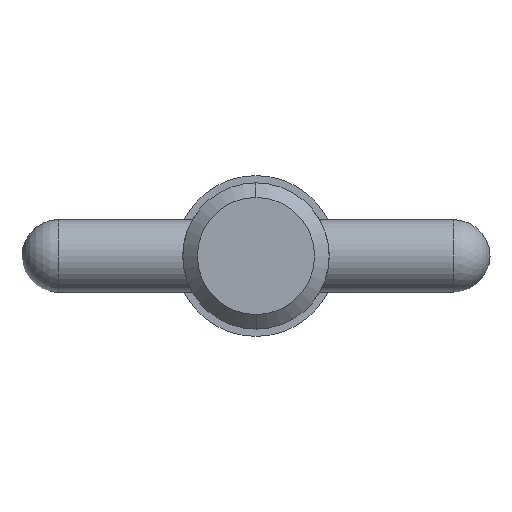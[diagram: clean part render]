
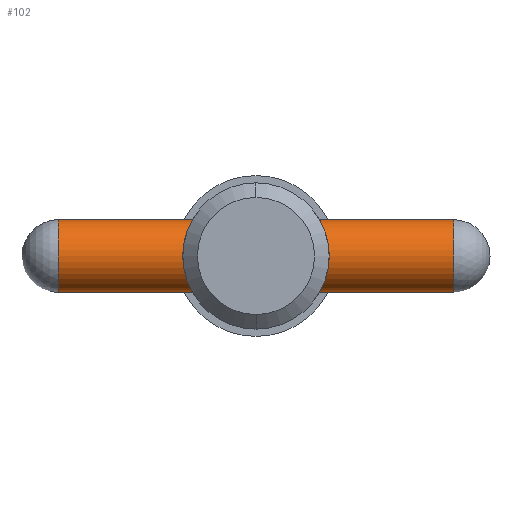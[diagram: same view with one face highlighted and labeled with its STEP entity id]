
A CAD part, left-side view. The second image highlights one B-rep face of the part: STEP entity #102.
In plain terms, the highlighted cylindrical face has radius 1.98 mm (diameter 3.96 mm), a partial arc.
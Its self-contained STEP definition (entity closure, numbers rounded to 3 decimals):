
#102 = ADVANCED_FACE ( 'NONE', ( #365 ), #681, .T. ) ;
#119 = AXIS2_PLACEMENT_3D ( 'NONE', #557, #723, #704 ) ;
#133 = DIRECTION ( 'NONE',  ( 0., 0., -1. ) ) ;
#191 = VERTEX_POINT ( 'NONE', #442 ) ;
#206 = DIRECTION ( 'NONE',  ( 0., -1., 0. ) ) ;
#246 = DIRECTION ( 'NONE',  ( 0., -1., 0. ) ) ;
#291 = DIRECTION ( 'NONE',  ( 0., 0., -1. ) ) ;
#302 = ORIENTED_EDGE ( 'NONE', *, *, #801, .F. ) ;
#321 = AXIS2_PLACEMENT_3D ( 'NONE', #1003, #206, #291 ) ;
#362 = EDGE_CURVE ( 'NONE', #937, #393, #613, .T. ) ;
#365 = FACE_OUTER_BOUND ( 'NONE', #883, .T. ) ;
#390 = DIRECTION ( 'NONE',  ( 0., -1., 0. ) ) ;
#393 = VERTEX_POINT ( 'NONE', #407 ) ;
#394 = LINE ( 'NONE', #699, #622 ) ;
#407 = CARTESIAN_POINT ( 'NONE',  ( 0., -10.72, -1.98 ) ) ;
#442 = CARTESIAN_POINT ( 'NONE',  ( 0., -10.72, 1.98 ) ) ;
#448 = AXIS2_PLACEMENT_3D ( 'NONE', #634, #488, #133 ) ;
#461 = EDGE_CURVE ( 'NONE', #393, #191, #469, .T. ) ;
#469 = CIRCLE ( 'NONE', #448, 1.98 ) ;
#488 = DIRECTION ( 'NONE',  ( 0., 1., 0. ) ) ;
#557 = CARTESIAN_POINT ( 'NONE',  ( 0., 10.72, 0. ) ) ;
#613 = LINE ( 'NONE', #768, #684 ) ;
#622 = VECTOR ( 'NONE', #390, 1000. ) ;
#634 = CARTESIAN_POINT ( 'NONE',  ( 0., -10.72, 0. ) ) ;
#681 = CYLINDRICAL_SURFACE ( 'NONE', #321, 1.98 ) ;
#684 = VECTOR ( 'NONE', #246, 1000. ) ;
#699 = CARTESIAN_POINT ( 'NONE',  ( 0., 12.7, 1.98 ) ) ;
#704 = DIRECTION ( 'NONE',  ( 0., 0., -1. ) ) ;
#707 = ORIENTED_EDGE ( 'NONE', *, *, #777, .T. ) ;
#723 = DIRECTION ( 'NONE',  ( 0., -1., 0. ) ) ;
#768 = CARTESIAN_POINT ( 'NONE',  ( 0., 12.7, -1.98 ) ) ;
#777 = EDGE_CURVE ( 'NONE', #805, #937, #942, .T. ) ;
#801 = EDGE_CURVE ( 'NONE', #805, #191, #394, .T. ) ;
#805 = VERTEX_POINT ( 'NONE', #1015 ) ;
#810 = CARTESIAN_POINT ( 'NONE',  ( 0., 10.72, -1.98 ) ) ;
#874 = ORIENTED_EDGE ( 'NONE', *, *, #362, .T. ) ;
#877 = ORIENTED_EDGE ( 'NONE', *, *, #461, .T. ) ;
#883 = EDGE_LOOP ( 'NONE', ( #302, #707, #874, #877 ) ) ;
#937 = VERTEX_POINT ( 'NONE', #810 ) ;
#942 = CIRCLE ( 'NONE', #119, 1.98 ) ;
#1003 = CARTESIAN_POINT ( 'NONE',  ( 0., 12.7, 0. ) ) ;
#1015 = CARTESIAN_POINT ( 'NONE',  ( 0., 10.72, 1.98 ) ) ;
